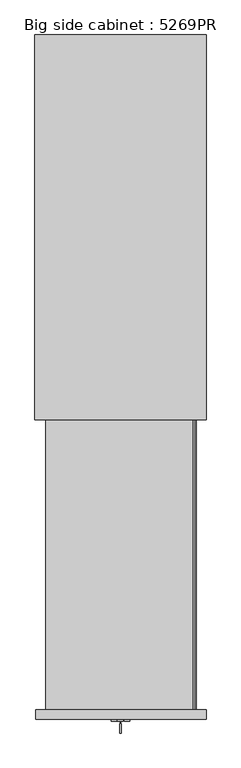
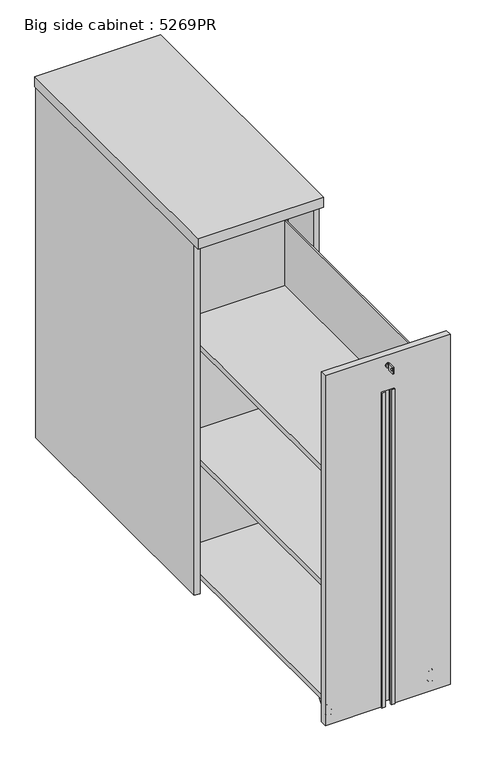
"""IFC4 building model written with IfcOpenShell, lengths in millimetres: furniture geometry, Big side cabinet : 5269PR."""

from ifc_helpers import new_model, si_unit, point, frame, frame_2d, origin, origin_with_axes, place, context, project, spatial, polyline, circle_curve, ellipse_curve, trimmed, segment, composite_curve, outline, extrude, source, transform, mapped, element, save
from ifc_brep_helpers import plane_surface, cylinder_surface, revolved_surface, advanced_brep


def big_side_cabinet_5269pr_3b21b27f(model_context):
    return source(origin(), model_context, "Body", "SolidModel", [
        extrude(outline(polyline([(1.5783188, 20.1617145), (1.5783188, 10.1617145), (-8.4216812, 10.1617145), (-8.4216812, 20.1617145), (1.5783188, 20.1617145)])), origin_with_axes(), (0.0, 0.0, 1.0), 10.0),
        extrude(outline(polyline([(180.5000002, 898.0), (198.5, 898.0), (198.5, 22.9999769), (180.5000002, 22.9999769), (180.5000002, 898.0)])), frame((0.0, 0.0, 5.0), z_axis=(0.0, 0.0, 1.0), x_axis=(1.0, 0.0, 0.0)), (0.0, 0.0, 1.0), 1180.0),
        extrude(outline(polyline([(-180.5000002, 878.4999997), (-180.5000002, 890.9999997), (180.5000002, 890.9999997), (180.5000002, 878.4999997), (-180.5000002, 878.4999997)])), frame((0.0, 0.0, 5.0), z_axis=(0.0, 0.0, 1.0), x_axis=(1.0, 0.0, 0.0)), (0.0, 0.0, 1.0), 1180.0),
        extrude(outline(polyline([(-180.5000002, 898.0), (-180.5000002, 22.9999769), (-198.5, 22.9999769), (-198.5, 898.0), (-180.5000002, 898.0)])), frame((0.0, 0.0, 5.0), z_axis=(0.0, 0.0, 1.0), x_axis=(1.0, 0.0, 0.0)), (0.0, 0.0, 1.0), 1180.0),
        extrude(outline(polyline([(180.5000002, 70.0000151), (-180.5000002, 70.0000151), (-180.5000002, 838.5000021), (180.5000002, 838.5000021), (180.5000002, 70.0000151)])), frame((0.0, 0.0, 20.0583505), z_axis=(0.0, 0.0, 1.0), x_axis=(1.0, 0.0, 0.0)), (0.0, 0.0, 1.0), 17.9999982),
        extrude(outline(polyline([(200.0, 0.0), (-200.0, 0.0), (-200.0, 900.0), (200.0, 900.0), (200.0, 0.0)])), frame((0.0, 0.0, 1185.0), z_axis=(0.0, 0.0, 1.0), x_axis=(1.0, 0.0, 0.0)), (0.0, 0.0, 1.0), 35.0),
        extrude(outline(composite_curve([segment(trimmed(circle_curve(frame_2d((-160.5000002, 806.0000021)), 20.0), [point((-180.5000002, 806.0000021))], [point((-140.5000002, 806.0000021))], False, "CARTESIAN"), True, "CONTINUOUS"), segment(trimmed(circle_curve(frame_2d((-160.5000002, 806.0000021)), 20.0), [point((-140.5000002, 806.0000021))], [point((-180.5000002, 806.0000021))], False, "CARTESIAN"), True, "CONTINUOUS")], self_intersect=False)), origin_with_axes(), (0.0, 0.0, 1.0), 19.0539492),
        extrude(outline(composite_curve([segment(trimmed(circle_curve(frame_2d((-160.5000002, 98.9999918)), 20.0), [point((-180.5000002, 98.9999918))], [point((-140.5000002, 98.9999918))], False, "CARTESIAN"), True, "CONTINUOUS"), segment(trimmed(circle_curve(frame_2d((-160.5000002, 98.9999918)), 20.0), [point((-140.5000002, 98.9999918))], [point((-180.5000002, 98.9999918))], False, "CARTESIAN"), True, "CONTINUOUS")], self_intersect=False)), origin_with_axes(), (0.0, 0.0, 1.0), 19.0539492),
        extrude(outline(composite_curve([segment(trimmed(circle_curve(frame_2d((160.5000002, 806.0000021)), 20.0), [point((140.5000002, 806.0000021))], [point((180.5000002, 806.0000021))], False, "CARTESIAN"), True, "CONTINUOUS"), segment(trimmed(circle_curve(frame_2d((160.5000002, 806.0000021)), 20.0), [point((180.5000002, 806.0000021))], [point((140.5000002, 806.0000021))], False, "CARTESIAN"), True, "CONTINUOUS")], self_intersect=False)), origin_with_axes(), (0.0, 0.0, 1.0), 19.0539492),
        extrude(outline(composite_curve([segment(trimmed(circle_curve(frame_2d((160.5000002, 98.9999918)), 20.0), [point((140.5000002, 98.9999918))], [point((180.5000002, 98.9999918))], False, "CARTESIAN"), True, "CONTINUOUS"), segment(trimmed(circle_curve(frame_2d((160.5000002, 98.9999918)), 20.0), [point((180.5000002, 98.9999918))], [point((140.5000002, 98.9999918))], False, "CARTESIAN"), True, "CONTINUOUS")], self_intersect=False)), origin_with_axes(), (0.0, 0.0, 1.0), 19.0539492),
        advanced_brep(
        [(155.997354, -648.0000393, 10.5), (158.25, -648.0000393, 12.752646), (158.25, -648.0000393, 29.247354), (155.997354, -648.0000393, 31.5), (155.997354, -648.0000393, 3.0456405), (155.997354, -648.0000393, 38.9543595), (159.0429945, -648.0000393, 0.0), (159.0429945, -648.0000393, 42.0), (162.5, -648.0000393, 0.0), (162.5, -648.0000393, 42.0), (162.5, -648.0000393, 16.75), (162.5, -648.0000393, 25.25), (158.25, -648.0000393, 16.75), (158.25, -648.0000393, 25.25)],
        [
            (0, 1),
            (1, 2, circle_curve(frame((158.25, -648.0000393, 21.0), z_axis=(1.0, 0.0, 0.0), x_axis=(0.0, 0.0, 1.0)), 8.247354)),
            (2, 3),
            (3, 0, circle_curve(frame((155.997354, -648.0000393, 21.0), z_axis=(-1.0, 0.0, 0.0), x_axis=(0.0, 0.0, 1.0)), 10.5)),
            (2, 1, circle_curve(frame((158.25, -648.0000393, 21.0), z_axis=(1.0, 0.0, 0.0), x_axis=(0.0, 0.0, 1.0)), 8.247354)),
            (0, 3, circle_curve(frame((155.997354, -648.0000393, 21.0), z_axis=(-1.0, 0.0, 0.0), x_axis=(0.0, 0.0, 1.0)), 10.5)),
            (4, 0),
            (3, 5),
            (5, 4, circle_curve(frame((155.997354, -648.0000393, 21.0), z_axis=(-1.0, 0.0, 0.0), x_axis=(0.0, 0.0, 1.0)), 17.9543595)),
            (4, 5, circle_curve(frame((155.997354, -648.0000393, 21.0), z_axis=(-1.0, 0.0, 0.0), x_axis=(0.0, 0.0, 1.0)), 17.9543595)),
            (6, 4, circle_curve(frame((159.0429945, -648.0000393, 3.0456405), z_axis=(0.0, 1.0, 0.0), x_axis=(-1.0, 0.0, 0.0)), 3.0456405)),
            (5, 7, circle_curve(frame((159.0429945, -648.0000393, 38.9543595), z_axis=(0.0, 1.0, 0.0), x_axis=(-1.0, 0.0, 0.0)), 3.0456405)),
            (7, 6, circle_curve(frame((159.0429945, -648.0000393, 21.0), z_axis=(-1.0, 0.0, 0.0), x_axis=(0.0, 0.0, 1.0)), 21.0)),
            (6, 7, circle_curve(frame((159.0429945, -648.0000393, 21.0), z_axis=(-1.0, 0.0, 0.0), x_axis=(0.0, 0.0, 1.0)), 21.0)),
            (8, 6),
            (7, 9),
            (9, 8, circle_curve(frame((162.5, -648.0000393, 21.0), z_axis=(-1.0, 0.0, 0.0), x_axis=(0.0, 0.0, 1.0)), 21.0)),
            (8, 9, circle_curve(frame((162.5, -648.0000393, 21.0), z_axis=(-1.0, 0.0, 0.0), x_axis=(0.0, 0.0, 1.0)), 21.0)),
            (10, 8),
            (9, 11),
            (11, 10, circle_curve(frame((162.5, -648.0000393, 21.0), z_axis=(-1.0, 0.0, 0.0), x_axis=(0.0, 0.0, 1.0)), 4.25)),
            (10, 11, circle_curve(frame((162.5, -648.0000393, 21.0), z_axis=(-1.0, 0.0, 0.0), x_axis=(0.0, 0.0, 1.0)), 4.25)),
            (12, 10),
            (11, 13),
            (13, 12, circle_curve(frame((158.25, -648.0000393, 21.0), z_axis=(-1.0, 0.0, 0.0), x_axis=(0.0, 0.0, 1.0)), 4.25)),
            (12, 13, circle_curve(frame((158.25, -648.0000393, 21.0), z_axis=(-1.0, 0.0, 0.0), x_axis=(0.0, 0.0, 1.0)), 4.25)),
            (1, 12),
            (13, 2),
        ],
        [
            revolved_surface(polyline([(158.25, -648.0000393, 29.247354), (155.997354, -648.0000393, 31.5)]), (135.5019942, -648.0000393, 21.0), (1.0, 0.0, 0.0)),
            plane_surface(frame((155.997354, -648.0000393, 21.0), z_axis=(-1.0, 0.0, 0.0), x_axis=(0.0, 0.0, 1.0))),
            revolved_surface(trimmed(ellipse_curve(frame((159.0429945, -648.0000393, 38.9543595), z_axis=(0.0, 1.0, 0.0), x_axis=(-1.0, 0.0, 0.0)), 3.0456405, 3.0456405), [point((155.997354, -648.0000393, 38.9543595))], [point((159.0429945, -648.0000393, 42.0))], True, "CARTESIAN"), (135.5019942, -648.0000393, 21.0), (1.0, 0.0, 0.0)),
            cylinder_surface(frame((135.5019942, -648.0000393, 21.0), z_axis=(1.0, 0.0, 0.0), x_axis=(0.0, 0.0, 1.0)), 21.0),
            plane_surface(frame((162.5, -648.0000393, 21.0), z_axis=(1.0, 0.0, 0.0), x_axis=(0.0, 0.0, 1.0))),
            revolved_surface(polyline([(162.5, -648.0000393, 25.25), (158.25, -648.0000393, 25.25)]), (135.5019942, -648.0000393, 21.0), (1.0, 0.0, 0.0)),
            plane_surface(frame((158.25, -648.0000393, 21.0), z_axis=(-1.0, 0.0, 0.0), x_axis=(0.0, 0.0, 1.0))),
        ],
        [
            (0, [[1, 2, 3, 4]]),
            (0, [[-3, 5, -1, 6]]),
            (1, [[7, -4, 8, 9]]),
            (1, [[-8, -6, -7, 10]]),
            (2, [[11, -9, 12, 13]]),
            (2, [[-12, -10, -11, 14]]),
            (3, [[15, -13, 16, 17]]),
            (3, [[-16, -14, -15, 18]]),
            (4, [[19, -17, 20, 21]]),
            (4, [[-20, -18, -19, 22]]),
            (5, [[23, -21, 24, 25]]),
            (5, [[-24, -22, -23, 26]]),
            (6, [[27, -25, 28, -2]]),
            (6, [[-28, -26, -27, -5]]),
        ],
    ),
        advanced_brep(
        [(174.351441, -648.0000393, 25.0), (174.351441, -648.0000393, 21.0), (174.351441, -648.0000393, 17.0), (169.8769483, -648.0000393, 17.0), (169.8769483, -648.0000393, 25.0)],
        [
            (0, 1),
            (1, 2),
            (2, 0, circle_curve(frame((174.351441, -648.0000393, 21.0), z_axis=(1.0, 0.0, 0.0), x_axis=(0.0, 0.0, -1.0)), 4.0)),
            (0, 2, circle_curve(frame((174.351441, -648.0000393, 21.0), z_axis=(1.0, 0.0, 0.0), x_axis=(0.0, 0.0, -1.0)), 4.0)),
            (2, 3),
            (3, 4, circle_curve(frame((169.8769483, -648.0000393, 21.0), z_axis=(1.0, 0.0, 0.0), x_axis=(0.0, 0.0, -1.0)), 4.0)),
            (4, 0),
            (4, 3, circle_curve(frame((169.8769483, -648.0000393, 21.0), z_axis=(1.0, 0.0, 0.0), x_axis=(0.0, 0.0, -1.0)), 4.0)),
        ],
        [
            plane_surface(frame((174.351441, -648.0000393, 21.0), z_axis=(1.0, 0.0, 0.0), x_axis=(0.0, 0.0, -1.0))),
            cylinder_surface(frame((142.5, -648.0000393, 21.0), z_axis=(-1.0, 0.0, 0.0), x_axis=(0.0, 0.0, -1.0)), 4.0),
            plane_surface(frame((169.8769483, -672.0000393, 46.0), z_axis=(-1.0, 0.0, 0.0), x_axis=(0.0, 1.0, 0.0))),
        ],
        [
            (0, [[1, 2, 3]]),
            (0, [[-1, 4, -2]]),
            (1, [[5, 6, 7, -3]]),
            (1, [[-7, 8, -5, -4]]),
            (2, [[-8, -6]]),
        ],
    ),
        advanced_brep(
        [(150.5708052, -648.0000393, 25.0), (155.0, -648.0000393, 25.0), (155.0, -648.0000393, 17.0), (150.5708052, -648.0000393, 17.0), (150.5708052, -648.0000393, 21.0)],
        [
            (0, 1),
            (1, 2, circle_curve(frame((155.0, -648.0000393, 21.0), z_axis=(-1.0, 0.0, 0.0), x_axis=(0.0, 0.0, -1.0)), 4.0)),
            (2, 3),
            (3, 0, circle_curve(frame((150.5708052, -648.0000393, 21.0), z_axis=(1.0, 0.0, 0.0), x_axis=(0.0, 0.0, -1.0)), 4.0)),
            (2, 1, circle_curve(frame((155.0, -648.0000393, 21.0), z_axis=(-1.0, 0.0, 0.0), x_axis=(0.0, 0.0, -1.0)), 4.0)),
            (0, 3, circle_curve(frame((150.5708052, -648.0000393, 21.0), z_axis=(1.0, 0.0, 0.0), x_axis=(0.0, 0.0, -1.0)), 4.0)),
            (3, 4),
            (4, 0),
        ],
        [
            cylinder_surface(frame((142.5, -648.0000393, 21.0), z_axis=(-1.0, 0.0, 0.0), x_axis=(0.0, 0.0, -1.0)), 4.0),
            plane_surface(frame((150.5708052, -648.0000393, 21.0), z_axis=(-1.0, 0.0, 0.0), x_axis=(0.0, 0.0, -1.0))),
            plane_surface(frame((155.0, -672.0000393, 0.0), z_axis=(1.0, 0.0, 0.0), x_axis=(0.0, 1.0, 0.0))),
        ],
        [
            (0, [[1, 2, 3, 4]]),
            (0, [[-3, 5, -1, 6]]),
            (1, [[7, 8, -4]]),
            (1, [[-8, -7, -6]]),
            (2, [[-5, -2]]),
        ],
    ),
        advanced_brep(
        [(166.75, -648.0000393, 12.752646), (169.002646, -648.0000393, 10.5), (169.002646, -648.0000393, 31.5), (166.75, -648.0000393, 29.247354), (169.002646, -648.0000393, 3.0456405), (169.002646, -648.0000393, 38.9543595), (165.9570055, -648.0000393, 0.0), (165.9570055, -648.0000393, 42.0), (162.5, -648.0000393, 0.0), (162.5, -648.0000393, 42.0), (162.5, -648.0000393, 21.0), (166.75, -648.0000393, 21.0)],
        [
            (0, 1),
            (1, 2, circle_curve(frame((169.002646, -648.0000393, 21.0), z_axis=(1.0, 0.0, 0.0), x_axis=(0.0, 0.0, 1.0)), 10.5)),
            (2, 3),
            (3, 0, circle_curve(frame((166.75, -648.0000393, 21.0), z_axis=(-1.0, 0.0, 0.0), x_axis=(0.0, 0.0, 1.0)), 8.247354)),
            (2, 1, circle_curve(frame((169.002646, -648.0000393, 21.0), z_axis=(1.0, 0.0, 0.0), x_axis=(0.0, 0.0, 1.0)), 10.5)),
            (0, 3, circle_curve(frame((166.75, -648.0000393, 21.0), z_axis=(-1.0, 0.0, 0.0), x_axis=(0.0, 0.0, 1.0)), 8.247354)),
            (1, 4),
            (4, 5, circle_curve(frame((169.002646, -648.0000393, 21.0), z_axis=(1.0, 0.0, 0.0), x_axis=(0.0, 0.0, 1.0)), 17.9543595)),
            (5, 2),
            (5, 4, circle_curve(frame((169.002646, -648.0000393, 21.0), z_axis=(1.0, 0.0, 0.0), x_axis=(0.0, 0.0, 1.0)), 17.9543595)),
            (4, 6, circle_curve(frame((165.9570055, -648.0000393, 3.0456405), z_axis=(0.0, 1.0, 0.0), x_axis=(1.0, 0.0, 0.0)), 3.0456405)),
            (6, 7, circle_curve(frame((165.9570055, -648.0000393, 21.0), z_axis=(1.0, 0.0, 0.0), x_axis=(0.0, 0.0, 1.0)), 21.0)),
            (7, 5, circle_curve(frame((165.9570055, -648.0000393, 38.9543595), z_axis=(0.0, 1.0, 0.0), x_axis=(1.0, 0.0, 0.0)), 3.0456405)),
            (7, 6, circle_curve(frame((165.9570055, -648.0000393, 21.0), z_axis=(1.0, 0.0, 0.0), x_axis=(0.0, 0.0, 1.0)), 21.0)),
            (6, 8),
            (8, 9, circle_curve(frame((162.5, -648.0000393, 21.0), z_axis=(1.0, 0.0, 0.0), x_axis=(0.0, 0.0, 1.0)), 21.0)),
            (9, 7),
            (9, 8, circle_curve(frame((162.5, -648.0000393, 21.0), z_axis=(1.0, 0.0, 0.0), x_axis=(0.0, 0.0, 1.0)), 21.0)),
            (8, 10),
            (10, 9),
            (11, 0),
            (3, 11),
        ],
        [
            revolved_surface(polyline([(169.002646, -648.0000393, 31.5), (166.75, -648.0000393, 29.247354)]), (189.4980058, -648.0000393, 21.0), (1.0, 0.0, 0.0)),
            plane_surface(frame((169.002646, -648.0000393, 21.0), z_axis=(1.0, 0.0, 0.0), x_axis=(0.0, 0.0, 1.0))),
            revolved_surface(trimmed(ellipse_curve(frame((165.9570055, -648.0000393, 38.9543595), z_axis=(0.0, 1.0, 0.0), x_axis=(1.0, 0.0, 0.0)), 3.0456405, 3.0456405), [point((165.9570055, -648.0000393, 42.0))], [point((169.002646, -648.0000393, 38.9543595))], True, "CARTESIAN"), (189.4980058, -648.0000393, 21.0), (1.0, 0.0, 0.0)),
            cylinder_surface(frame((189.4980058, -648.0000393, 21.0), z_axis=(1.0, 0.0, 0.0), x_axis=(0.0, 0.0, 1.0)), 21.0),
            plane_surface(frame((162.5, -648.0000393, 21.0), z_axis=(-1.0, 0.0, 0.0), x_axis=(0.0, 0.0, 1.0))),
            plane_surface(frame((166.75, -648.0000393, 21.0), z_axis=(1.0, 0.0, 0.0), x_axis=(0.0, 0.0, 1.0))),
        ],
        [
            (0, [[1, 2, 3, 4]]),
            (0, [[-3, 5, -1, 6]]),
            (1, [[7, 8, 9, -2]]),
            (1, [[-9, 10, -7, -5]]),
            (2, [[11, 12, 13, -8]]),
            (2, [[-13, 14, -11, -10]]),
            (3, [[15, 16, 17, -12]]),
            (3, [[-17, 18, -15, -14]]),
            (4, [[19, 20, -16]]),
            (4, [[-20, -19, -18]]),
            (5, [[21, -4, 22]]),
            (5, [[-22, -6, -21]]),
        ],
    ),
        advanced_brep(
        [(152.5, -624.0000393, 48.0), (152.5, -624.0000393, 42.0), (152.5, -640.0000393, 21.0), (152.5, -656.0000393, 21.0), (152.5, -672.0000393, 42.0), (152.5, -672.0000393, 48.0), (172.5, -624.0000393, 48.0), (172.5, -672.0000393, 48.0), (172.5, -672.0000393, 42.0), (172.5, -656.0000393, 21.0), (172.5, -640.0000393, 21.0), (172.5, -624.0000393, 42.0), (169.8769483, -656.0000393, 21.0), (169.8769483, -640.0000393, 21.0), (155.0, -640.0000393, 21.0), (155.0, -656.0000393, 21.0), (155.0, -672.0000393, 42.0), (155.0, -672.0000393, 46.0), (169.8769483, -672.0000393, 46.0), (169.8769483, -672.0000393, 42.0), (169.8769483, -624.0000393, 42.0), (169.8769483, -624.0000393, 46.0), (155.0, -624.0000393, 46.0), (155.0, -624.0000393, 42.0)],
        [
            (0, 1),
            (1, 2),
            (2, 3, circle_curve(frame((152.5, -648.0000393, 21.0), z_axis=(-1.0, 0.0, 0.0), x_axis=(0.0, -1.0, 0.0)), 8.0)),
            (3, 4),
            (4, 5),
            (5, 0),
            (6, 7),
            (7, 8),
            (8, 9),
            (9, 10, circle_curve(frame((172.5, -648.0000393, 21.0), z_axis=(1.0, 0.0, 0.0), x_axis=(0.0, -1.0, 0.0)), 8.0)),
            (10, 11),
            (11, 6),
            (5, 7),
            (6, 0),
            (9, 12),
            (12, 13, circle_curve(frame((169.8769483, -648.0000393, 21.0), z_axis=(1.0, 0.0, 0.0), x_axis=(0.0, -1.0, 0.0)), 8.0)),
            (13, 10),
            (2, 14),
            (14, 15, circle_curve(frame((155.0, -648.0000393, 21.0), z_axis=(-1.0, 0.0, 0.0), x_axis=(0.0, -1.0, 0.0)), 8.0)),
            (15, 3),
            (4, 16),
            (16, 17),
            (17, 18),
            (18, 19),
            (19, 8),
            (11, 20),
            (20, 21),
            (21, 22),
            (22, 23),
            (23, 1),
            (17, 22),
            (21, 18),
            (16, 15),
            (14, 23),
            (20, 13),
            (12, 19),
        ],
        [
            plane_surface(frame((152.5, -672.0000393, 48.0), z_axis=(-1.0, 0.0, 0.0), x_axis=(0.0, -1.0, 0.0))),
            plane_surface(frame((172.5, -672.0000393, 48.0), z_axis=(1.0, 0.0, 0.0), x_axis=(0.0, 1.0, 0.0))),
            plane_surface(frame((152.5, -624.0000393, 48.0), z_axis=(0.0, 0.0, 1.0), x_axis=(1.0, 0.0, 0.0))),
            cylinder_surface(frame((172.5, -648.0000393, 21.0), z_axis=(-1.0, 0.0, 0.0), x_axis=(0.0, -1.0, 0.0)), 8.0),
            plane_surface(frame((152.5, -672.0000393, 48.0), z_axis=(0.0, -1.0, 0.0), x_axis=(1.0, 0.0, 0.0))),
            plane_surface(frame((152.5, -624.0000393, 42.0), z_axis=(0.0, 1.0, 0.0), x_axis=(1.0, 0.0, 0.0))),
            plane_surface(frame((155.0, -672.0000393, 46.0), z_axis=(0.0, 0.0, -1.0), x_axis=(0.0, 1.0, 0.0))),
            plane_surface(frame((155.0, -672.0000393, 0.0), z_axis=(1.0, 0.0, 0.0), x_axis=(0.0, 1.0, 0.0))),
            plane_surface(frame((169.8769483, -672.0000393, 46.0), z_axis=(-1.0, 0.0, 0.0), x_axis=(0.0, 1.0, 0.0))),
            plane_surface(frame((152.5, -672.0000393, 42.0), z_axis=(0.0, -0.7954317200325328, -0.6060432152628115), x_axis=(1.0, 0.0, 0.0))),
            plane_surface(frame((152.5, -640.0000393, 21.0), z_axis=(0.0, 0.7954317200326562, -0.6060432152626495), x_axis=(1.0, 0.0, 0.0))),
        ],
        [
            (0, [[1, 2, 3, 4, 5, 6]]),
            (1, [[7, 8, 9, 10, 11, 12]]),
            (2, [[13, -7, 14, -6]]),
            (3, [[15, 16, 17, -10]]),
            (3, [[18, 19, 20, -3]]),
            (4, [[21, 22, 23, 24, 25, -8, -13, -5]]),
            (5, [[-14, -12, 26, 27, 28, 29, 30, -1]]),
            (6, [[-23, 31, -28, 32]]),
            (7, [[-22, 33, -19, 34, -29, -31]]),
            (8, [[-27, 35, -16, 36, -24, -32]]),
            (9, [[-20, -33, -21, -4]]),
            (9, [[-25, -36, -15, -9]]),
            (10, [[-30, -34, -18, -2]]),
            (10, [[-17, -35, -26, -11]]),
        ],
    ),
        extrude(outline(polyline([(-732.0000046, 1139.014113), (-732.0000046, 1161.0), (-710.0000046, 1161.0), (-710.0000046, 1139.014113), (-732.0000046, 1139.014113)]), holes=[composite_curve([segment(trimmed(circle_curve(frame_2d((-725.7500046, 1150.0070565)), 3.2230706), [point((-725.7500046, 1153.2301271))], [point((-725.7500046, 1146.7839859))], True, "CARTESIAN"), True, "CONTINUOUS"), segment(trimmed(circle_curve(frame_2d((-725.7500046, 1150.0070565)), 3.2230706), [point((-725.7500046, 1146.7839859))], [point((-725.7500046, 1153.2301271))], True, "CARTESIAN"), True, "CONTINUOUS")], self_intersect=False)]), frame((-2.0, 0.0, 0.0), z_axis=(1.0, 0.0, 0.0), x_axis=(0.0, 1.0, 0.0)), (0.0, 0.0, 1.0), 4.0416064),
        extrude(outline(polyline([(1.0416064, -710.0000046), (-1.0, -710.0000046), (-1.0, -704.0000046), (1.0416064, -704.0000046), (1.0416064, -710.0000046)])), frame((0.0, 0.0, 1146.014113), z_axis=(0.0, 0.0, 1.0), x_axis=(1.0, 0.0, 0.0)), (0.0, 0.0, 1.0), 7.985887),
        extrude(outline(composite_curve([segment(trimmed(circle_curve(frame_2d((1150.0, 0.0)), 7.0), [point((1150.0, -7.0))], [point((1150.0, 7.0))], False, "CARTESIAN"), True, "CONTINUOUS"), segment(trimmed(circle_curve(frame_2d((1150.0, 0.0)), 7.0), [point((1150.0, 7.0))], [point((1150.0, -7.0))], False, "CARTESIAN"), True, "CONTINUOUS")], self_intersect=False)), frame((0.0, -704.0000046, 0.0), z_axis=(0.0, 1.0, 0.0), x_axis=(0.0, 0.0, 1.0)), (0.0, 0.0, 1.0), 4.0),
        extrude(outline(polyline([(1182.0, 200.0000015), (1182.0, -198.5000015), (5.0, -198.5000015), (5.0, -17.7500067), (1065.0, -17.7500067), (1065.0, 17.7500067), (5.0, 17.7500067), (5.0, 200.0000015), (1182.0, 200.0000015)])), frame((0.0, -700.0000046, 0.0), z_axis=(0.0, 1.0, 0.0), x_axis=(0.0, 0.0, 1.0)), (0.0, 0.0, 1.0), 21.9999653),
        extrude(outline(polyline([(-21.2499929, -704.2058707), (-21.2499929, -700.0000046), (-17.7500067, -700.0000046), (-17.7500067, -678.0000393), (17.7500067, -678.0000393), (17.7500067, -700.0000046), (21.2499929, -700.0000046), (21.2499929, -704.2058707), (9.2499986, -704.2058707), (9.2499986, -698.4780496), (15.9519183, -695.3528931), (15.9519183, -680.3528931), (-15.9519183, -680.3528931), (-15.9519183, -695.3528931), (-9.2499986, -698.4780496), (-9.2499986, -704.2058707), (-21.2499929, -704.2058707)])), frame((0.0, 0.0, 5.0), z_axis=(0.0, 0.0, 1.0), x_axis=(1.0, 0.0, 0.0)), (0.0, 0.0, 1.0), 1060.0),
        extrude(outline(polyline([(169.8004833, -678.0000046), (169.8004833, 160.5000143), (173.7499883, 160.5000143), (173.7499883, -678.0000046), (169.8004833, -678.0000046)])), frame((0.0, 0.0, 836.0), z_axis=(0.0, 0.0, 1.0), x_axis=(1.0, 0.0, 0.0)), (0.0, 0.0, 1.0), 220.0),
        extrude(outline(polyline([(169.8004833, -678.0000046), (169.8004833, 160.5000143), (173.7499883, 160.5000143), (173.7499883, -678.0000046), (169.8004833, -678.0000046)])), frame((0.0, 0.0, 451.0), z_axis=(0.0, 0.0, 1.0), x_axis=(1.0, 0.0, 0.0)), (0.0, 0.0, 1.0), 220.0),
        extrude(outline(polyline([(169.8004833, -678.0000046), (169.8004833, 160.5000143), (173.7499883, 160.5000143), (173.7499883, -678.0000046), (169.8004833, -678.0000046)])), frame((0.0, 0.0, 66.0), z_axis=(0.0, 0.0, 1.0), x_axis=(1.0, 0.0, 0.0)), (0.0, 0.0, 1.0), 220.0),
        advanced_brep(
        [(-155.997354, -648.0000393, 10.5), (-155.997354, -648.0000393, 31.5), (-158.25, -648.0000393, 29.247354), (-158.25, -648.0000393, 12.752646), (-155.997354, -648.0000393, 3.0456405), (-155.997354, -648.0000393, 38.9543595), (-159.0429945, -648.0000393, 0.0), (-159.0429945, -648.0000393, 42.0), (-162.5, -648.0000393, 0.0), (-162.5, -648.0000393, 42.0), (-162.5, -648.0000393, 16.75), (-162.5, -648.0000393, 25.25), (-158.25, -648.0000393, 16.75), (-158.25, -648.0000393, 25.25)],
        [
            (0, 1, circle_curve(frame((-155.997354, -648.0000393, 21.0), z_axis=(1.0, 0.0, 0.0), x_axis=(0.0, 0.0, 1.0)), 10.5)),
            (1, 2),
            (2, 3, circle_curve(frame((-158.25, -648.0000393, 21.0), z_axis=(-1.0, 0.0, 0.0), x_axis=(0.0, 0.0, 1.0)), 8.247354)),
            (3, 0),
            (1, 0, circle_curve(frame((-155.997354, -648.0000393, 21.0), z_axis=(1.0, 0.0, 0.0), x_axis=(0.0, 0.0, 1.0)), 10.5)),
            (3, 2, circle_curve(frame((-158.25, -648.0000393, 21.0), z_axis=(-1.0, 0.0, 0.0), x_axis=(0.0, 0.0, 1.0)), 8.247354)),
            (4, 5, circle_curve(frame((-155.997354, -648.0000393, 21.0), z_axis=(1.0, 0.0, 0.0), x_axis=(0.0, 0.0, 1.0)), 17.9543595)),
            (5, 1),
            (0, 4),
            (5, 4, circle_curve(frame((-155.997354, -648.0000393, 21.0), z_axis=(1.0, 0.0, 0.0), x_axis=(0.0, 0.0, 1.0)), 17.9543595)),
            (6, 7, circle_curve(frame((-159.0429945, -648.0000393, 21.0), z_axis=(1.0, 0.0, 0.0), x_axis=(0.0, 0.0, 1.0)), 21.0)),
            (7, 5, circle_curve(frame((-159.0429945, -648.0000393, 38.9543595), z_axis=(0.0, 1.0, 0.0), x_axis=(1.0, 0.0, 0.0)), 3.0456405)),
            (4, 6, circle_curve(frame((-159.0429945, -648.0000393, 3.0456405), z_axis=(0.0, 1.0, 0.0), x_axis=(1.0, 0.0, 0.0)), 3.0456405)),
            (7, 6, circle_curve(frame((-159.0429945, -648.0000393, 21.0), z_axis=(1.0, 0.0, 0.0), x_axis=(0.0, 0.0, 1.0)), 21.0)),
            (8, 9, circle_curve(frame((-162.5, -648.0000393, 21.0), z_axis=(1.0, 0.0, 0.0), x_axis=(0.0, 0.0, 1.0)), 21.0)),
            (9, 7),
            (6, 8),
            (9, 8, circle_curve(frame((-162.5, -648.0000393, 21.0), z_axis=(1.0, 0.0, 0.0), x_axis=(0.0, 0.0, 1.0)), 21.0)),
            (10, 11, circle_curve(frame((-162.5, -648.0000393, 21.0), z_axis=(1.0, 0.0, 0.0), x_axis=(0.0, 0.0, 1.0)), 4.25)),
            (11, 9),
            (8, 10),
            (11, 10, circle_curve(frame((-162.5, -648.0000393, 21.0), z_axis=(1.0, 0.0, 0.0), x_axis=(0.0, 0.0, 1.0)), 4.25)),
            (12, 13, circle_curve(frame((-158.25, -648.0000393, 21.0), z_axis=(1.0, 0.0, 0.0), x_axis=(0.0, 0.0, 1.0)), 4.25)),
            (13, 11),
            (10, 12),
            (13, 12, circle_curve(frame((-158.25, -648.0000393, 21.0), z_axis=(1.0, 0.0, 0.0), x_axis=(0.0, 0.0, 1.0)), 4.25)),
            (2, 13),
            (12, 3),
        ],
        [
            revolved_surface(polyline([(-158.25, -648.0000393, 29.247354), (-155.997354, -648.0000393, 31.5)]), (-135.5019942, -648.0000393, 21.0), (-1.0, 0.0, 0.0)),
            plane_surface(frame((-155.997354, -648.0000393, 21.0), z_axis=(1.0, 0.0, 0.0), x_axis=(0.0, 0.0, 1.0))),
            revolved_surface(trimmed(ellipse_curve(frame((-159.0429945, -648.0000393, 38.9543595), z_axis=(0.0, -1.0, 0.0), x_axis=(1.0, 0.0, 0.0)), 3.0456405, 3.0456405), [point((-155.997354, -648.0000393, 38.9543595))], [point((-159.0429945, -648.0000393, 42.0))], True, "CARTESIAN"), (-135.5019942, -648.0000393, 21.0), (-1.0, 0.0, 0.0)),
            cylinder_surface(frame((-135.5019942, -648.0000393, 21.0), z_axis=(-1.0, 0.0, 0.0), x_axis=(0.0, 0.0, 1.0)), 21.0),
            plane_surface(frame((-162.5, -648.0000393, 21.0), z_axis=(-1.0, 0.0, 0.0), x_axis=(0.0, 0.0, 1.0))),
            revolved_surface(polyline([(-162.5, -648.0000393, 25.25), (-158.25, -648.0000393, 25.25)]), (-135.5019942, -648.0000393, 21.0), (-1.0, 0.0, 0.0)),
            plane_surface(frame((-158.25, -648.0000393, 21.0), z_axis=(1.0, 0.0, 0.0), x_axis=(0.0, 0.0, 1.0))),
        ],
        [
            (0, [[1, 2, 3, 4]]),
            (0, [[5, -4, 6, -2]]),
            (1, [[7, 8, -1, 9]]),
            (1, [[10, -9, -5, -8]]),
            (2, [[11, 12, -7, 13]]),
            (2, [[14, -13, -10, -12]]),
            (3, [[15, 16, -11, 17]]),
            (3, [[18, -17, -14, -16]]),
            (4, [[19, 20, -15, 21]]),
            (4, [[22, -21, -18, -20]]),
            (5, [[23, 24, -19, 25]]),
            (5, [[26, -25, -22, -24]]),
            (6, [[-3, 27, -23, 28]]),
            (6, [[-6, -28, -26, -27]]),
        ],
    ),
        advanced_brep(
        [(-174.351441, -648.0000393, 25.0), (-174.351441, -648.0000393, 17.0), (-174.351441, -648.0000393, 21.0), (-169.8769483, -648.0000393, 25.0), (-169.8769483, -648.0000393, 17.0)],
        [
            (0, 1, circle_curve(frame((-174.351441, -648.0000393, 21.0), z_axis=(-1.0, 0.0, 0.0), x_axis=(0.0, 0.0, -1.0)), 4.0)),
            (1, 2),
            (2, 0),
            (1, 0, circle_curve(frame((-174.351441, -648.0000393, 21.0), z_axis=(-1.0, 0.0, 0.0), x_axis=(0.0, 0.0, -1.0)), 4.0)),
            (0, 3),
            (3, 4, circle_curve(frame((-169.8769483, -648.0000393, 21.0), z_axis=(-1.0, 0.0, 0.0), x_axis=(0.0, 0.0, -1.0)), 4.0)),
            (4, 1),
            (4, 3, circle_curve(frame((-169.8769483, -648.0000393, 21.0), z_axis=(-1.0, 0.0, 0.0), x_axis=(0.0, 0.0, -1.0)), 4.0)),
        ],
        [
            plane_surface(frame((-174.351441, -648.0000393, 21.0), z_axis=(-1.0, 0.0, 0.0), x_axis=(0.0, 0.0, -1.0))),
            cylinder_surface(frame((-142.5, -648.0000393, 21.0), z_axis=(1.0, 0.0, 0.0), x_axis=(0.0, 0.0, -1.0)), 4.0),
            plane_surface(frame((-169.8769483, -672.0000393, 46.0), z_axis=(1.0, 0.0, 0.0), x_axis=(0.0, 1.0, 0.0))),
        ],
        [
            (0, [[1, 2, 3]]),
            (0, [[-2, 4, -3]]),
            (1, [[-1, 5, 6, 7]]),
            (1, [[-4, -7, 8, -5]]),
            (2, [[-6, -8]]),
        ],
    ),
        advanced_brep(
        [(-150.5708052, -648.0000393, 25.0), (-150.5708052, -648.0000393, 17.0), (-155.0, -648.0000393, 17.0), (-155.0, -648.0000393, 25.0), (-150.5708052, -648.0000393, 21.0)],
        [
            (0, 1, circle_curve(frame((-150.5708052, -648.0000393, 21.0), z_axis=(-1.0, 0.0, 0.0), x_axis=(0.0, 0.0, -1.0)), 4.0)),
            (1, 2),
            (2, 3, circle_curve(frame((-155.0, -648.0000393, 21.0), z_axis=(1.0, 0.0, 0.0), x_axis=(0.0, 0.0, -1.0)), 4.0)),
            (3, 0),
            (1, 0, circle_curve(frame((-150.5708052, -648.0000393, 21.0), z_axis=(-1.0, 0.0, 0.0), x_axis=(0.0, 0.0, -1.0)), 4.0)),
            (3, 2, circle_curve(frame((-155.0, -648.0000393, 21.0), z_axis=(1.0, 0.0, 0.0), x_axis=(0.0, 0.0, -1.0)), 4.0)),
            (0, 4),
            (4, 1),
        ],
        [
            cylinder_surface(frame((-142.5, -648.0000393, 21.0), z_axis=(1.0, 0.0, 0.0), x_axis=(0.0, 0.0, -1.0)), 4.0),
            plane_surface(frame((-150.5708052, -648.0000393, 21.0), z_axis=(1.0, 0.0, 0.0), x_axis=(0.0, 0.0, -1.0))),
            plane_surface(frame((-155.0, -672.0000393, 0.0), z_axis=(-1.0, 0.0, 0.0), x_axis=(0.0, 1.0, 0.0))),
        ],
        [
            (0, [[1, 2, 3, 4]]),
            (0, [[5, -4, 6, -2]]),
            (1, [[-1, 7, 8]]),
            (1, [[-5, -8, -7]]),
            (2, [[-3, -6]]),
        ],
    ),
        advanced_brep(
        [(-166.75, -648.0000393, 12.752646), (-166.75, -648.0000393, 29.247354), (-169.002646, -648.0000393, 31.5), (-169.002646, -648.0000393, 10.5), (-169.002646, -648.0000393, 38.9543595), (-169.002646, -648.0000393, 3.0456405), (-165.9570055, -648.0000393, 42.0), (-165.9570055, -648.0000393, 0.0), (-162.5, -648.0000393, 42.0), (-162.5, -648.0000393, 0.0), (-162.5, -648.0000393, 21.0), (-166.75, -648.0000393, 21.0)],
        [
            (0, 1, circle_curve(frame((-166.75, -648.0000393, 21.0), z_axis=(1.0, 0.0, 0.0), x_axis=(0.0, 0.0, 1.0)), 8.247354)),
            (1, 2),
            (2, 3, circle_curve(frame((-169.002646, -648.0000393, 21.0), z_axis=(-1.0, 0.0, 0.0), x_axis=(0.0, 0.0, 1.0)), 10.5)),
            (3, 0),
            (1, 0, circle_curve(frame((-166.75, -648.0000393, 21.0), z_axis=(1.0, 0.0, 0.0), x_axis=(0.0, 0.0, 1.0)), 8.247354)),
            (3, 2, circle_curve(frame((-169.002646, -648.0000393, 21.0), z_axis=(-1.0, 0.0, 0.0), x_axis=(0.0, 0.0, 1.0)), 10.5)),
            (2, 4),
            (4, 5, circle_curve(frame((-169.002646, -648.0000393, 21.0), z_axis=(-1.0, 0.0, 0.0), x_axis=(0.0, 0.0, 1.0)), 17.9543595)),
            (5, 3),
            (5, 4, circle_curve(frame((-169.002646, -648.0000393, 21.0), z_axis=(-1.0, 0.0, 0.0), x_axis=(0.0, 0.0, 1.0)), 17.9543595)),
            (4, 6, circle_curve(frame((-165.9570055, -648.0000393, 38.9543595), z_axis=(0.0, 1.0, 0.0), x_axis=(-1.0, 0.0, 0.0)), 3.0456405)),
            (6, 7, circle_curve(frame((-165.9570055, -648.0000393, 21.0), z_axis=(-1.0, 0.0, 0.0), x_axis=(0.0, 0.0, 1.0)), 21.0)),
            (7, 5, circle_curve(frame((-165.9570055, -648.0000393, 3.0456405), z_axis=(0.0, 1.0, 0.0), x_axis=(-1.0, 0.0, 0.0)), 3.0456405)),
            (7, 6, circle_curve(frame((-165.9570055, -648.0000393, 21.0), z_axis=(-1.0, 0.0, 0.0), x_axis=(0.0, 0.0, 1.0)), 21.0)),
            (6, 8),
            (8, 9, circle_curve(frame((-162.5, -648.0000393, 21.0), z_axis=(-1.0, 0.0, 0.0), x_axis=(0.0, 0.0, 1.0)), 21.0)),
            (9, 7),
            (9, 8, circle_curve(frame((-162.5, -648.0000393, 21.0), z_axis=(-1.0, 0.0, 0.0), x_axis=(0.0, 0.0, 1.0)), 21.0)),
            (8, 10),
            (10, 9),
            (11, 1),
            (0, 11),
        ],
        [
            revolved_surface(polyline([(-169.002646, -648.0000393, 31.5), (-166.75, -648.0000393, 29.247354)]), (-189.4980058, -648.0000393, 21.0), (-1.0, 0.0, 0.0)),
            plane_surface(frame((-169.002646, -648.0000393, 21.0), z_axis=(-1.0, 0.0, 0.0), x_axis=(0.0, 0.0, 1.0))),
            revolved_surface(trimmed(ellipse_curve(frame((-165.9570055, -648.0000393, 38.9543595), z_axis=(0.0, -1.0, 0.0), x_axis=(-1.0, 0.0, 0.0)), 3.0456405, 3.0456405), [point((-165.9570055, -648.0000393, 42.0))], [point((-169.002646, -648.0000393, 38.9543595))], True, "CARTESIAN"), (-189.4980058, -648.0000393, 21.0), (-1.0, 0.0, 0.0)),
            cylinder_surface(frame((-189.4980058, -648.0000393, 21.0), z_axis=(-1.0, 0.0, 0.0), x_axis=(0.0, 0.0, 1.0)), 21.0),
            plane_surface(frame((-162.5, -648.0000393, 21.0), z_axis=(1.0, 0.0, 0.0), x_axis=(0.0, 0.0, 1.0))),
            plane_surface(frame((-166.75, -648.0000393, 21.0), z_axis=(-1.0, 0.0, 0.0), x_axis=(0.0, 0.0, 1.0))),
        ],
        [
            (0, [[1, 2, 3, 4]]),
            (0, [[5, -4, 6, -2]]),
            (1, [[-3, 7, 8, 9]]),
            (1, [[-6, -9, 10, -7]]),
            (2, [[-8, 11, 12, 13]]),
            (2, [[-10, -13, 14, -11]]),
            (3, [[-12, 15, 16, 17]]),
            (3, [[-14, -17, 18, -15]]),
            (4, [[-16, 19, 20]]),
            (4, [[-18, -20, -19]]),
            (5, [[21, -1, 22]]),
            (5, [[-22, -5, -21]]),
        ],
    ),
        advanced_brep(
        [(-152.5, -624.0000393, 48.0), (-152.5, -672.0000393, 48.0), (-152.5, -672.0000393, 42.0), (-152.5, -656.0000393, 21.0), (-152.5, -640.0000393, 21.0), (-152.5, -624.0000393, 42.0), (-172.5, -624.0000393, 48.0), (-172.5, -624.0000393, 42.0), (-172.5, -640.0000393, 21.0), (-172.5, -656.0000393, 21.0), (-172.5, -672.0000393, 42.0), (-172.5, -672.0000393, 48.0), (-155.0, -656.0000393, 21.0), (-155.0, -640.0000393, 21.0), (-169.8769483, -640.0000393, 21.0), (-169.8769483, -656.0000393, 21.0), (-169.8769483, -672.0000393, 42.0), (-169.8769483, -672.0000393, 46.0), (-155.0, -672.0000393, 46.0), (-155.0, -672.0000393, 42.0), (-155.0, -624.0000393, 42.0), (-155.0, -624.0000393, 46.0), (-169.8769483, -624.0000393, 46.0), (-169.8769483, -624.0000393, 42.0)],
        [
            (0, 1),
            (1, 2),
            (2, 3),
            (3, 4, circle_curve(frame((-152.5, -648.0000393, 21.0), z_axis=(1.0, 0.0, 0.0), x_axis=(0.0, -1.0, 0.0)), 8.0)),
            (4, 5),
            (5, 0),
            (6, 7),
            (7, 8),
            (8, 9, circle_curve(frame((-172.5, -648.0000393, 21.0), z_axis=(-1.0, 0.0, 0.0), x_axis=(0.0, -1.0, 0.0)), 8.0)),
            (9, 10),
            (10, 11),
            (11, 6),
            (0, 6),
            (11, 1),
            (3, 12),
            (12, 13, circle_curve(frame((-155.0, -648.0000393, 21.0), z_axis=(1.0, 0.0, 0.0), x_axis=(0.0, -1.0, 0.0)), 8.0)),
            (13, 4),
            (8, 14),
            (14, 15, circle_curve(frame((-169.8769483, -648.0000393, 21.0), z_axis=(-1.0, 0.0, 0.0), x_axis=(0.0, -1.0, 0.0)), 8.0)),
            (15, 9),
            (10, 16),
            (16, 17),
            (17, 18),
            (18, 19),
            (19, 2),
            (5, 20),
            (20, 21),
            (21, 22),
            (22, 23),
            (23, 7),
            (17, 22),
            (21, 18),
            (20, 13),
            (12, 19),
            (16, 15),
            (14, 23),
        ],
        [
            plane_surface(frame((-152.5, -672.0000393, 48.0), z_axis=(1.0, 0.0, 0.0), x_axis=(0.0, -1.0, 0.0))),
            plane_surface(frame((-172.5, -672.0000393, 48.0), z_axis=(-1.0, 0.0, 0.0), x_axis=(0.0, 1.0, 0.0))),
            plane_surface(frame((-152.5, -624.0000393, 48.0), z_axis=(0.0, 0.0, 1.0), x_axis=(-1.0, 0.0, 0.0))),
            cylinder_surface(frame((-172.5, -648.0000393, 21.0), z_axis=(1.0, 0.0, 0.0), x_axis=(0.0, -1.0, 0.0)), 8.0),
            plane_surface(frame((-152.5, -672.0000393, 48.0), z_axis=(0.0, -1.0, 0.0), x_axis=(-1.0, 0.0, 0.0))),
            plane_surface(frame((-152.5, -624.0000393, 42.0), z_axis=(0.0, 1.0, 0.0), x_axis=(-1.0, 0.0, 0.0))),
            plane_surface(frame((-155.0, -672.0000393, 46.0), z_axis=(0.0, 0.0, -1.0), x_axis=(0.0, 1.0, 0.0))),
            plane_surface(frame((-155.0, -672.0000393, 0.0), z_axis=(-1.0, 0.0, 0.0), x_axis=(0.0, 1.0, 0.0))),
            plane_surface(frame((-169.8769483, -672.0000393, 46.0), z_axis=(1.0, 0.0, 0.0), x_axis=(0.0, 1.0, 0.0))),
            plane_surface(frame((-152.5, -672.0000393, 42.0), z_axis=(0.0, -0.7954317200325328, -0.6060432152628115), x_axis=(-1.0, 0.0, 0.0))),
            plane_surface(frame((-152.5, -640.0000393, 21.0), z_axis=(0.0, 0.7954317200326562, -0.6060432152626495), x_axis=(-1.0, 0.0, 0.0))),
        ],
        [
            (0, [[1, 2, 3, 4, 5, 6]]),
            (1, [[7, 8, 9, 10, 11, 12]]),
            (2, [[-1, 13, -12, 14]]),
            (3, [[-4, 15, 16, 17]]),
            (3, [[-9, 18, 19, 20]]),
            (4, [[-2, -14, -11, 21, 22, 23, 24, 25]]),
            (5, [[-6, 26, 27, 28, 29, 30, -7, -13]]),
            (6, [[31, -28, 32, -23]]),
            (7, [[-32, -27, 33, -16, 34, -24]]),
            (8, [[-31, -22, 35, -19, 36, -29]]),
            (9, [[-3, -25, -34, -15]]),
            (9, [[-10, -20, -35, -21]]),
            (10, [[-5, -17, -33, -26]]),
            (10, [[-8, -30, -36, -18]]),
        ],
    ),
        extrude(outline(polyline([(178.9999867, 160.5000143), (-177.0096218, 160.5000143), (-177.0096218, 178.5000057), (178.9999867, 178.5000057), (178.9999867, 160.5000143)])), frame((0.0, 0.0, 48.0), z_axis=(0.0, 0.0, 1.0), x_axis=(1.0, 0.0, 0.0)), (0.0, 0.0, 1.0), 1017.0),
        extrude(outline(polyline([(-175.0096218, 160.5000143), (176.9999867, 160.5000143), (176.9999867, -678.0000046), (-175.0096218, -678.0000046), (-175.0096218, 160.5000143)])), frame((0.0, 0.0, 818.0), z_axis=(0.0, 0.0, 1.0), x_axis=(1.0, 0.0, 0.0)), (0.0, 0.0, 1.0), 18.0),
        extrude(outline(polyline([(-175.0096218, 160.5000143), (176.9999867, 160.5000143), (176.9999867, -678.0000046), (-175.0096218, -678.0000046), (-175.0096218, 160.5000143)])), frame((0.0, 0.0, 433.0), z_axis=(0.0, 0.0, 1.0), x_axis=(1.0, 0.0, 0.0)), (0.0, 0.0, 1.0), 18.0),
        extrude(outline(polyline([(-175.0096218, 160.5000143), (176.9999867, 160.5000143), (176.9999867, -678.0000046), (-175.0096218, -678.0000046), (-175.0096218, 160.5000143)])), frame((0.0, 0.0, 48.0), z_axis=(0.0, 0.0, 1.0), x_axis=(1.0, 0.0, 0.0)), (0.0, 0.0, 1.0), 18.0),
    ])


if __name__ == "__main__":
    model = new_model("IFC4")
    model_context = context("Model", 3, world=origin())
    ifc_project = project(units=[si_unit("LENGTHUNIT", "METRE", prefix="MILLI")], contexts=[model_context])
    site = spatial("IfcSite", under=ifc_project)
    building = spatial("IfcBuilding", under=site)
    placement = place(None, origin())
    big_side_cabinet_5269pr_shape = big_side_cabinet_5269pr_3b21b27f(model_context)
    element("IfcFurniture", 1, ObjectType="Big side cabinet : 5269PR", at=placement, inside=building, context=model_context, shape_type="MappedRepresentation", body=[
        mapped(big_side_cabinet_5269pr_shape, transform((0.0, 0.0, 0.0), x_axis=(1.0, 0.0, 0.0), y_axis=(0.0, 1.0, 0.0), z_axis=(0.0, 0.0, 1.0))),
    ])
    save(model, "model.ifc")
